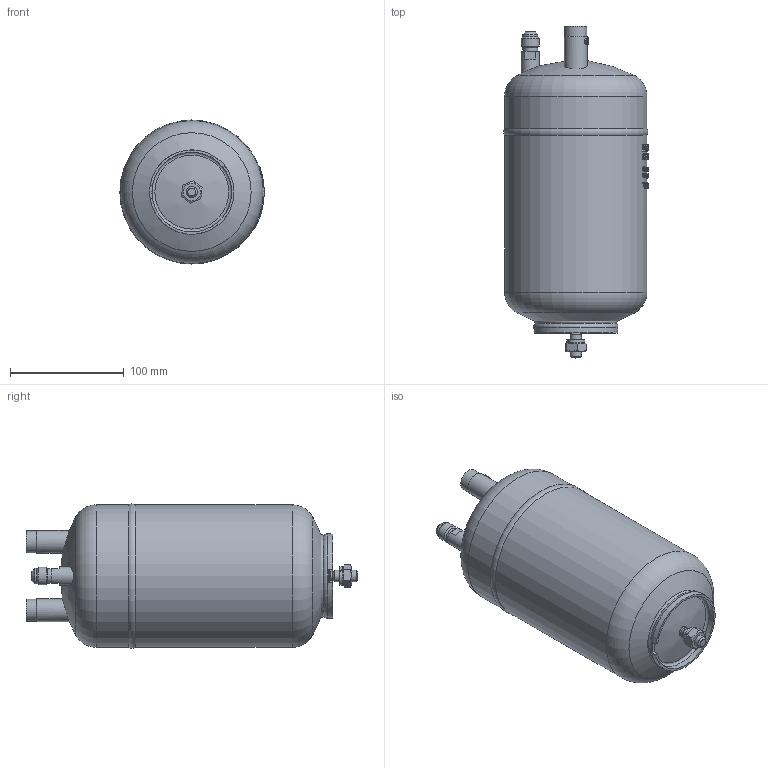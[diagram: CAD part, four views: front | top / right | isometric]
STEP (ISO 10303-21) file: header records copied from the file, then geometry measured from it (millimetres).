
FILE_DESCRIPTION(/* description */ (''),/* implementation_level */ '2;1');
FILE_NAME(/* name */ 'P:\OS\OS-16-CD\OS-16-CD.stp',/* time_stamp */ '2017-10-04T07:57:13+02:00',/* author */ ('neufeld'),/* organization */ (''),/* preprocessor_version */ 'ST-DEVELOPER v16.1',/* originating_system */ 'Autodesk Inventor 2016',/* authorisation */ '');
FILE_SCHEMA (('AUTOMOTIVE_DESIGN { 1 0 10303 214 3 1 1 }'));
Length unit declared in the file: millimetre
Products named in the file (2): OS-16-CD; OS-16-CD_1
Assembly tree (1 placements, depth 2):
  OS-16-CD_1
    OS-16-CD
Bounding box: 126.68 x 291.43 x 126.44 mm (x, y, z)
Volume: 2666174.3 mm3; surface area: 116462.8 mm2
Topology: 1 solids, 1 shells, 1019 faces, 2739 edges, 1818 vertices
Faces by surface type: plane 523, bspline 370, cylinder 105, cone 11, torus 7, sphere 3
Full cylindrical faces by diameter (mm): 7 x1, 7.2 x1, 10 x2, 12.9 x1, 13.5 x1, 15.7 x1, 16 x1, 16.2 x2, 19.4 x2, 20 x2, 70 x1, 74 x1, 125 x2
Entity records: 39485 total; most frequent: CARTESIAN_POINT 15992, ORIENTED_EDGE 5390, DIRECTION 3943, EDGE_CURVE 2695, VERTEX_POINT 1810, AXIS2_PLACEMENT_3D 1351, LINE 1241, VECTOR 1241
